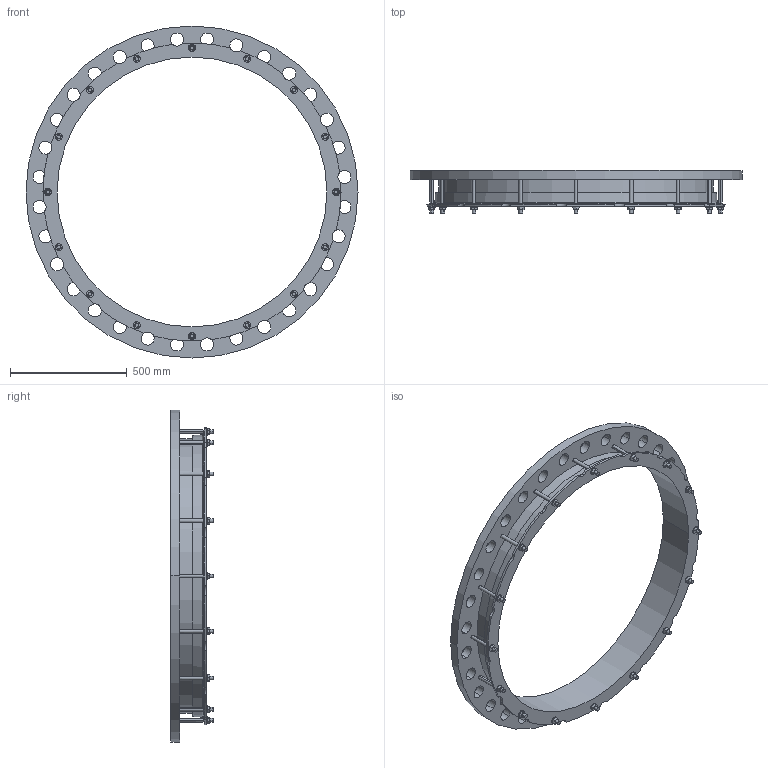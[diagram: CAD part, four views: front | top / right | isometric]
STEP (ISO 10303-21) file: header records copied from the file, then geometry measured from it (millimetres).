
FILE_DESCRIPTION((''),'2;1');
FILE_NAME('1152X1100PN25_16NOT','2019-04-04T',('mfairey'),('Glynwed Pipe Systems'),'CREO PARAMETRIC BY PTC INC, 2016130','CREO PARAMETRIC BY PTC INC, 2016130','');
FILE_SCHEMA(('CONFIG_CONTROL_DESIGN'));
Length unit declared in the file: millimetre
Products named in the file (1): 1152X1100PN25_16NOT
Bounding box: 1420 x 182 x 1420 mm (x, y, z)
Volume: 27350819.7 mm3; surface area: 2737823.8 mm2
Topology: 1 solids, 1 shells, 352 faces, 946 edges, 630 vertices
Faces by surface type: cylinder 198, plane 148, cone 4, torus 2
Entity records: 12866 total; most frequent: CARTESIAN_POINT 3582, DIRECTION 1938, ORIENTED_EDGE 1892, EDGE_CURVE 946, AXIS2_PLACEMENT_3D 724, VERTEX_POINT 630, VECTOR 490, LINE 490
